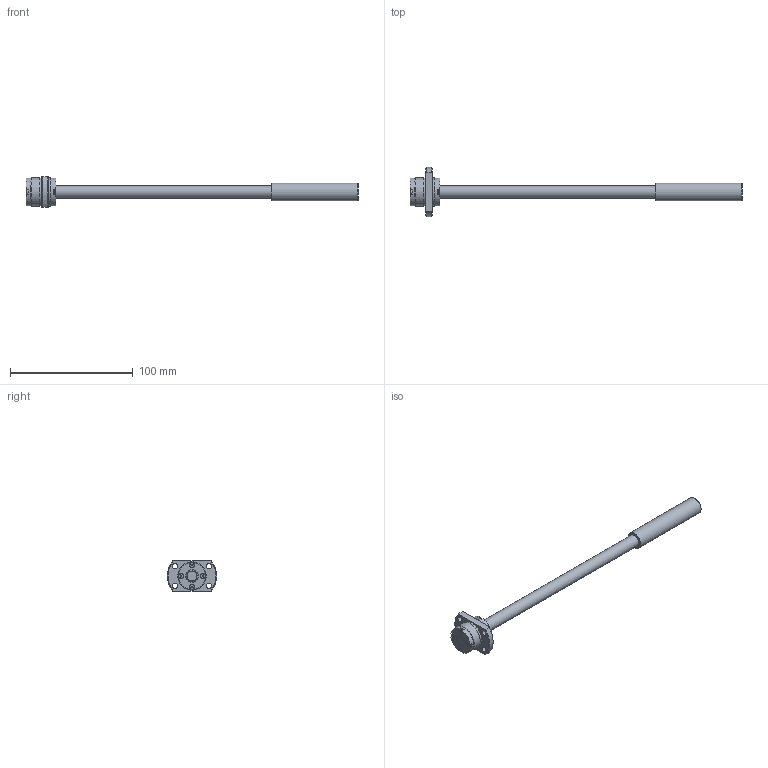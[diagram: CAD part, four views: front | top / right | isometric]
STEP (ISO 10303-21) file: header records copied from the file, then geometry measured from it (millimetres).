
FILE_DESCRIPTION( ( 'STEP AP203' ), '1' );
FILE_NAME( 'e:/temp/worker_90/temp/exporttempdir_3348_886_o9gYQ/format_0/SRT1010-196R270C10A0X(0None).stp', '2021-10-19T05:51:11', ( 'License CC BY-ND 4.0' ), ( 'CADENAS' ), ' ', 'PARTsolutions', ' ' );
FILE_SCHEMA( ( 'CONFIG_CONTROL_DESIGN' ) );
Length unit declared in the file: millimetre
Products named in the file (3): SRT1010-196R270C10A0X(0None); _SRT1010-196R270ACt10NoneShaft; _SRT1010Nut
Assembly tree (2 placements, depth 2):
  SRT1010-196R270C10A0X(0None)
    _SRT1010-196R270ACt10NoneShaft
    _SRT1010Nut
Bounding box: 270 x 40 x 25 mm (x, y, z)
Volume: 36788.9 mm3; surface area: 14513.8 mm2
Topology: 2 solids, 2 shells, 138 faces, 333 edges, 220 vertices
Faces by surface type: plane 99, cylinder 30, cone 9
Full cylindrical faces by diameter (mm): 3.8 x8, 4.5 x4, 10 x2, 14.2 x1, 22.5 x3, 23 x2
Entity records: 4004 total; most frequent: CARTESIAN_POINT 689, DIRECTION 662, ORIENTED_EDGE 612, EDGE_CURVE 306, AXIS2_PLACEMENT_3D 223, VERTEX_POINT 218, LINE 216, VECTOR 216
